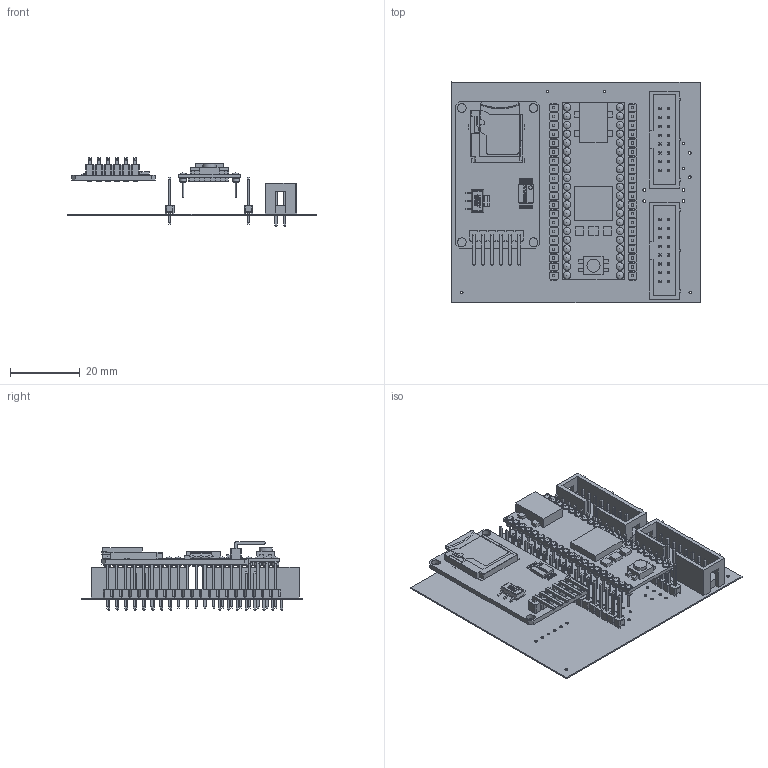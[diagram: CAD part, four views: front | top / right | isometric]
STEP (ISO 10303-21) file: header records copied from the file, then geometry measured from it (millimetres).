
FILE_DESCRIPTION(('Open CASCADE Model'),'2;1');
FILE_NAME('Open CASCADE Shape Model','2019-05-11T18:18:41',('Author'),( 'Open CASCADE'),'Open CASCADE STEP processor 6.2','Open CASCADE 6.2' ,'Unknown');
FILE_SCHEMA(('AUTOMOTIVE_DESIGN { 1 0 10303 214 1 1 1 1 }'));
Length unit declared in the file: millimetre
Products named in the file (17): PCB; Board; PANEL2; BH-16; PANEL1; SD_card; MicroSD_Reader_Assembly; sdreader; Open CASCADE STEP translator 6.2 3.4.1.1.1; Open CASCADE STEP translator 6.2 3.4.1.1.2; AMS1117; card_sd; MINI_MCU_CARD; Mini_PIC32_Microcontroller; LEFT; 1x20_Male_Pin_Header; RIGHT
Assembly tree (18 placements, depth 5):
  PCB
    Board
    PANEL2
      BH-16
    PANEL1
      BH-16
    SD_card
      MicroSD_Reader_Assembly
        sdreader
          Open CASCADE STEP translator 6.2 3.4.1.1.1
          Open CASCADE STEP translator 6.2 3.4.1.1.2
        AMS1117
        card_sd
    MINI_MCU_CARD
      Mini_PIC32_Microcontroller
    LEFT
      1x20_Male_Pin_Header
    RIGHT
      1x20_Male_Pin_Header
Bounding box: 71.25 x 63.63 x 19.65 mm (x, y, z)
Volume: 8359.6 mm3; surface area: 22947 mm2
Topology: 89 solids, 89 shells, 3435 faces, 8645 edges, 5601 vertices
Faces by surface type: plane 2896, cylinder 379, cone 81, revolution 40, bspline 38, torus 1
Full cylindrical faces by diameter (mm): 0.375 x40, 0.635 x72, 0.762 x26, 0.813 x46, 1 x1, 1.3 x6, 1.373 x40, 1.5 x40, 2.018 x40, 2.5 x4, 3.759 x1
Entity records: 168636 total; most frequent: CARTESIAN_POINT 44711, DIRECTION 20352, LINE 13596, VECTOR 13596, ORIENTED_EDGE 11762, PCURVE 11762, DEFINITIONAL_REPRESENTATION 11762, EDGE_CURVE 5881
